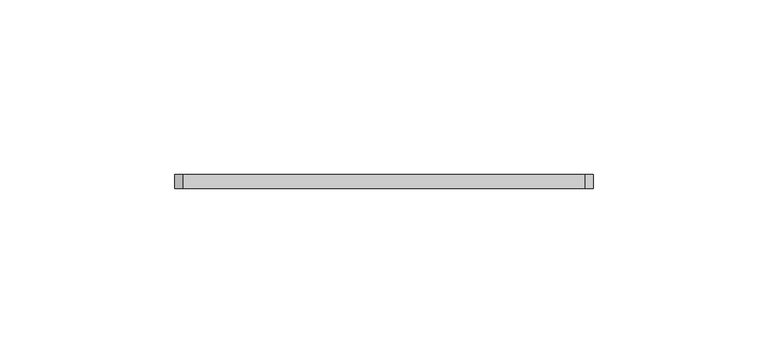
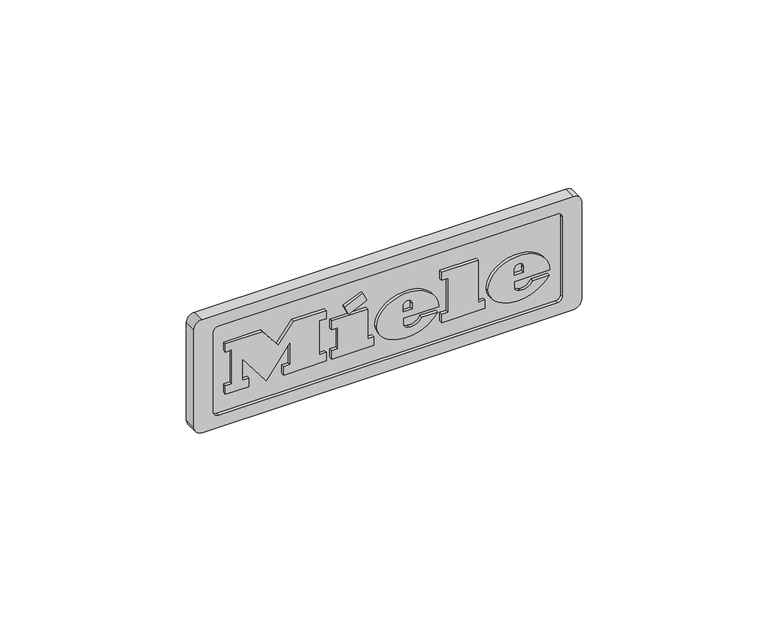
"""IFC4 building model written with IfcOpenShell, lengths in millimetres: proxy geometry, 09810110_USA_HR1421_EDST-CLST : 25142151_USA_9810110_HR1421_EDST-CLST."""

from ifc_helpers import new_model, si_unit, point, frame, origin, place, context, project, spatial, polyline, circle_curve, ellipse_curve, trimmed, outline, extrude, source, transform, mapped, element, save
from ifc_brep_helpers import plane_surface, cylinder_surface, revolved_surface, extruded_surface, advanced_brep


def specialty_equipment_497d5aad(model_context):
    return source(origin(), model_context, "Body", "SolidModel", [
        advanced_brep(
        [(39.18, -674.0, 175.9105), (39.18, -674.0, 177.577), (50.2185, -674.0, 177.577), (31.0125, -674.0, 177.577), (35.55, -674.0, 172.0), (49.938, -674.0, 175.9105), (44.955, -674.0, 175.9105), (41.028, -674.0, 174.0625), (39.18, -674.0, 179.689), (39.18, -674.0, 181.4875), (42.0015, -674.0, 181.4875), (42.0015, -674.0, 179.689), (39.18, -673.0, 175.9105), (41.028, -673.0, 174.0625), (44.955, -673.0, 175.9105), (49.938, -673.0, 175.9105), (35.55, -673.0, 172.0), (31.0125, -673.0, 177.577), (50.2185, -673.0, 177.577), (39.18, -673.0, 177.577), (39.18, -673.0, 179.689), (42.0015, -673.0, 179.689), (42.0015, -673.0, 181.4875), (39.18, -673.0, 181.4875)],
        [
            (0, 1),
            (1, 2),
            (2, 3, ellipse_curve(frame((40.6155, -674.0, 177.577), z_axis=(0.0, -1.0, 0.0), x_axis=(-1.0, 0.0, 0.0)), 9.603, 7.9365)),
            (3, 4, circle_curve(frame((37.39809, -674.0, 178.138), z_axis=(0.0, -1.0, 0.0), x_axis=(0.0, 0.0, -1.0)), 6.4101857)),
            (4, 5, circle_curve(frame((40.4232618, -674.0, 182.494), z_axis=(0.0, -1.0, 0.0), x_axis=(0.0, 0.0, -1.0)), 11.5703378)),
            (5, 6),
            (6, 7, circle_curve(frame((41.8345588, -674.0, 177.445), z_axis=(0.0, 1.0, 0.0), x_axis=(0.0, 0.0, -1.0)), 3.4773328)),
            (7, 0, circle_curve(frame((41.028, -674.0, 175.9105), z_axis=(0.0, 1.0, 0.0), x_axis=(0.0, 0.0, -1.0)), 1.848)),
            (8, 9),
            (9, 10, circle_curve(frame((40.59075, -674.0, 181.4875), z_axis=(0.0, 1.0, 0.0), x_axis=(0.0, 0.0, -1.0)), 1.41075)),
            (10, 11),
            (11, 8),
            (12, 13, circle_curve(frame((41.028, -673.0, 175.9105), z_axis=(0.0, -1.0, 0.0), x_axis=(0.0, 0.0, -1.0)), 1.848)),
            (13, 14, circle_curve(frame((41.8345588, -673.0, 177.445), z_axis=(0.0, -1.0, 0.0), x_axis=(0.0, 0.0, -1.0)), 3.4773328)),
            (14, 15),
            (15, 16, circle_curve(frame((40.4232618, -673.0, 182.494), z_axis=(0.0, 1.0, 0.0), x_axis=(0.0, 0.0, -1.0)), 11.5703378)),
            (16, 17, circle_curve(frame((37.39809, -673.0, 178.138), z_axis=(0.0, 1.0, 0.0), x_axis=(0.0, 0.0, -1.0)), 6.4101857)),
            (17, 18, ellipse_curve(frame((40.6155, -673.0, 177.577), z_axis=(0.0, 1.0, 0.0), x_axis=(-1.0, 0.0, 0.0)), 9.603, 7.9365)),
            (18, 19),
            (19, 12),
            (20, 21),
            (21, 22),
            (22, 23, circle_curve(frame((40.59075, -673.0, 181.4875), z_axis=(0.0, -1.0, 0.0), x_axis=(0.0, 0.0, -1.0)), 1.41075)),
            (23, 20),
            (0, 12),
            (19, 1),
            (18, 2),
            (5, 15),
            (14, 6),
            (17, 3),
            (13, 7),
            (16, 4),
            (8, 20),
            (23, 9),
            (22, 10),
            (21, 11),
        ],
        [
            plane_surface(frame((39.18, -674.0, 177.577), z_axis=(0.0, -1.0, 0.0), x_axis=(0.0, 0.0, 1.0))),
            plane_surface(frame((39.18, -673.0, 177.577), z_axis=(0.0, 1.0, 0.0), x_axis=(0.0, 0.0, -1.0))),
            plane_surface(frame((39.18, -674.0, 175.9105), z_axis=(1.0, 0.0, 0.0), x_axis=(0.0, 1.0, 0.0))),
            plane_surface(frame((39.18, -674.0, 177.577), z_axis=(0.0, 0.0, -1.0), x_axis=(0.0, 1.0, 0.0))),
            plane_surface(frame((49.938, -674.0, 175.9105), z_axis=(0.0, 0.0, 1.0), x_axis=(0.0, 1.0, 0.0))),
            extruded_surface(trimmed(ellipse_curve(frame((40.6155, -672.0, 177.577), z_axis=(0.0, -1.0, 0.0), x_axis=(-1.0, 0.0, 0.0)), 9.603, 7.9365), [point((50.2185, -672.0, 177.577))], [point((31.0125, -672.0, 177.577))], True, "CARTESIAN"), (0.0, -1.0, 0.0), 1.0),
            revolved_surface(polyline([(41.8345588, -673.0, 173.9676672), (41.8345588, -674.0, 173.9676672)]), (41.8345588, -673.0, 177.445), (0.0, 1.0, 0.0)),
            revolved_surface(polyline([(41.028, -673.0, 174.0625), (41.028, -674.0, 174.0625)]), (41.028, -673.0, 175.9105), (0.0, 1.0, 0.0)),
            cylinder_surface(frame((37.39809, -673.0, 178.138), z_axis=(0.0, -1.0, 0.0), x_axis=(0.0, 0.0, -1.0)), 6.4101857),
            cylinder_surface(frame((40.4232618, -673.0, 182.494), z_axis=(0.0, -1.0, 0.0), x_axis=(0.0, 0.0, -1.0)), 11.5703378),
            plane_surface(frame((39.18, -674.0, 179.689), z_axis=(1.0, 0.0, 0.0), x_axis=(0.0, 1.0, 0.0))),
            revolved_surface(polyline([(40.59075, -673.0, 180.07675), (40.59075, -674.0, 180.07675)]), (40.59075, -673.0, 181.4875), (0.0, 1.0, 0.0)),
            plane_surface(frame((42.0015, -674.0, 181.4875), z_axis=(-1.0, 0.0, 0.0), x_axis=(0.0, 1.0, 0.0))),
            plane_surface(frame((42.0015, -674.0, 179.689), z_axis=(0.0, 0.0, 1.0), x_axis=(0.0, 1.0, 0.0))),
        ],
        [
            (0, [[1, 2, 3, 4, 5, 6, 7, 8], [9, 10, 11, 12]]),
            (1, [[13, 14, 15, 16, 17, 18, 19, 20], [21, 22, 23, 24]]),
            (2, [[-1, 25, -20, 26]]),
            (3, [[-2, -26, -19, 27]]),
            (4, [[-6, 28, -15, 29]]),
            (5, [[-3, -27, -18, 30]]),
            (6, [[-7, -29, -14, 31]]),
            (7, [[-8, -31, -13, -25]]),
            (8, [[-4, -30, -17, 32]]),
            (9, [[-5, -32, -16, -28]]),
            (10, [[-9, 33, -24, 34]]),
            (11, [[-10, -34, -23, 35]]),
            (12, [[-11, -35, -22, 36]]),
            (13, [[-12, -36, -21, -33]]),
        ],
    ),
        advanced_brep(
        [(4.7445, -674.0, 175.9105), (4.7445, -674.0, 177.577), (15.783, -674.0, 177.577), (-3.423, -674.0, 177.577), (1.1145, -674.0, 172.0), (15.5025, -674.0, 175.9105), (10.5195, -674.0, 175.9105), (6.5925, -674.0, 174.0625), (4.7445, -674.0, 179.689), (4.7445, -674.0, 181.4875), (7.566, -674.0, 181.4875), (7.566, -674.0, 179.689), (4.7445, -673.0, 175.9105), (6.5925, -673.0, 174.0625), (10.5195, -673.0, 175.9105), (15.5025, -673.0, 175.9105), (1.1145, -673.0, 172.0), (-3.423, -673.0, 177.577), (15.783, -673.0, 177.577), (4.7445, -673.0, 177.577), (4.7445, -673.0, 179.689), (7.566, -673.0, 179.689), (7.566, -673.0, 181.4875), (4.7445, -673.0, 181.4875)],
        [
            (0, 1),
            (1, 2),
            (2, 3, ellipse_curve(frame((6.18, -674.0, 177.577), z_axis=(0.0, -1.0, 0.0), x_axis=(-1.0, 0.0, 0.0)), 9.603, 7.9365)),
            (3, 4, circle_curve(frame((2.96259, -674.0, 178.138), z_axis=(0.0, -1.0, 0.0), x_axis=(0.0, 0.0, -1.0)), 6.4101857)),
            (4, 5, circle_curve(frame((5.9877618, -674.0, 182.494), z_axis=(0.0, -1.0, 0.0), x_axis=(0.0, 0.0, -1.0)), 11.5703378)),
            (5, 6),
            (6, 7, circle_curve(frame((7.3990588, -674.0, 177.445), z_axis=(0.0, 1.0, 0.0), x_axis=(0.0, 0.0, -1.0)), 3.4773328)),
            (7, 0, circle_curve(frame((6.5925, -674.0, 175.9105), z_axis=(0.0, 1.0, 0.0), x_axis=(0.0, 0.0, -1.0)), 1.848)),
            (8, 9),
            (9, 10, circle_curve(frame((6.15525, -674.0, 181.4875), z_axis=(0.0, 1.0, 0.0), x_axis=(0.0, 0.0, -1.0)), 1.41075)),
            (10, 11),
            (11, 8),
            (12, 13, circle_curve(frame((6.5925, -673.0, 175.9105), z_axis=(0.0, -1.0, 0.0), x_axis=(0.0, 0.0, -1.0)), 1.848)),
            (13, 14, circle_curve(frame((7.3990588, -673.0, 177.445), z_axis=(0.0, -1.0, 0.0), x_axis=(0.0, 0.0, -1.0)), 3.4773328)),
            (14, 15),
            (15, 16, circle_curve(frame((5.9877618, -673.0, 182.494), z_axis=(0.0, 1.0, 0.0), x_axis=(0.0, 0.0, -1.0)), 11.5703378)),
            (16, 17, circle_curve(frame((2.96259, -673.0, 178.138), z_axis=(0.0, 1.0, 0.0), x_axis=(0.0, 0.0, -1.0)), 6.4101857)),
            (17, 18, ellipse_curve(frame((6.18, -673.0, 177.577), z_axis=(0.0, 1.0, 0.0), x_axis=(-1.0, 0.0, 0.0)), 9.603, 7.9365)),
            (18, 19),
            (19, 12),
            (20, 21),
            (21, 22),
            (22, 23, circle_curve(frame((6.15525, -673.0, 181.4875), z_axis=(0.0, -1.0, 0.0), x_axis=(0.0, 0.0, -1.0)), 1.41075)),
            (23, 20),
            (0, 12),
            (19, 1),
            (18, 2),
            (5, 15),
            (14, 6),
            (17, 3),
            (13, 7),
            (16, 4),
            (8, 20),
            (23, 9),
            (22, 10),
            (21, 11),
        ],
        [
            plane_surface(frame((4.7445, -674.0, 177.577), z_axis=(0.0, -1.0, 0.0), x_axis=(0.0, 0.0, 1.0))),
            plane_surface(frame((4.7445, -673.0, 177.577), z_axis=(0.0, 1.0, 0.0), x_axis=(0.0, 0.0, -1.0))),
            plane_surface(frame((4.7445, -674.0, 175.9105), z_axis=(1.0, 0.0, 0.0), x_axis=(0.0, 1.0, 0.0))),
            plane_surface(frame((4.7445, -674.0, 177.577), z_axis=(0.0, 0.0, -1.0), x_axis=(0.0, 1.0, 0.0))),
            plane_surface(frame((15.5025, -674.0, 175.9105), z_axis=(0.0, 0.0, 1.0), x_axis=(0.0, 1.0, 0.0))),
            extruded_surface(trimmed(ellipse_curve(frame((6.18, -672.0, 177.577), z_axis=(0.0, -1.0, 0.0), x_axis=(-1.0, 0.0, 0.0)), 9.603, 7.9365), [point((15.783, -672.0, 177.577))], [point((-3.423, -672.0, 177.577))], True, "CARTESIAN"), (0.0, -1.0, 0.0), 1.0),
            revolved_surface(polyline([(7.3990588, -673.0, 173.9676672), (7.3990588, -674.0, 173.9676672)]), (7.3990588, -673.0, 177.445), (0.0, 1.0, 0.0)),
            revolved_surface(polyline([(6.5925, -673.0, 174.0625), (6.5925, -674.0, 174.0625)]), (6.5925, -673.0, 175.9105), (0.0, 1.0, 0.0)),
            cylinder_surface(frame((2.96259, -673.0, 178.138), z_axis=(0.0, -1.0, 0.0), x_axis=(0.0, 0.0, -1.0)), 6.4101857),
            cylinder_surface(frame((5.9877618, -673.0, 182.494), z_axis=(0.0, -1.0, 0.0), x_axis=(0.0, 0.0, -1.0)), 11.5703378),
            plane_surface(frame((4.7445, -674.0, 179.689), z_axis=(1.0, 0.0, 0.0), x_axis=(0.0, 1.0, 0.0))),
            revolved_surface(polyline([(6.15525, -673.0, 180.07675), (6.15525, -674.0, 180.07675)]), (6.15525, -673.0, 181.4875), (0.0, 1.0, 0.0)),
            plane_surface(frame((7.566, -674.0, 181.4875), z_axis=(-1.0, 0.0, 0.0), x_axis=(0.0, 1.0, 0.0))),
            plane_surface(frame((7.566, -674.0, 179.689), z_axis=(0.0, 0.0, 1.0), x_axis=(0.0, 1.0, 0.0))),
        ],
        [
            (0, [[1, 2, 3, 4, 5, 6, 7, 8], [9, 10, 11, 12]]),
            (1, [[13, 14, 15, 16, 17, 18, 19, 20], [21, 22, 23, 24]]),
            (2, [[-1, 25, -20, 26]]),
            (3, [[-2, -26, -19, 27]]),
            (4, [[-6, 28, -15, 29]]),
            (5, [[-3, -27, -18, 30]]),
            (6, [[-7, -29, -14, 31]]),
            (7, [[-8, -31, -13, -25]]),
            (8, [[-4, -30, -17, 32]]),
            (9, [[-5, -32, -16, -28]]),
            (10, [[-9, 33, -24, 34]]),
            (11, [[-10, -34, -23, 35]]),
            (12, [[-11, -35, -22, 36]]),
            (13, [[-12, -36, -21, -33]]),
        ],
    ),
        extrude(outline(polyline([(187.5265, -13.29), (184.8535, -12.036), (187.4605, -6.4425), (190.1335, -7.68), (187.5265, -13.29)])), frame((0.0, -674.0, 0.0), z_axis=(0.0, 1.0, 0.0), x_axis=(0.0, 0.0, 1.0)), (0.0, 0.0, 1.0), 1.0),
        extrude(outline(polyline([(184.4905, -17.3655), (181.537, -17.3655), (181.537, -15.402), (174.772, -15.402), (174.772, -17.3655), (172.0, -17.3655), (172.0, -4.347), (174.772, -4.347), (174.772, -6.261), (184.4905, -6.261), (184.4905, -17.3655)])), frame((0.0, -674.0, 0.0), z_axis=(0.0, 1.0, 0.0), x_axis=(0.0, 0.0, 1.0)), (0.0, 0.0, 1.0), 1.0),
        extrude(outline(polyline([(185.8105, 16.707), (185.8105, 18.687), (174.772, 18.687), (174.772, 16.707), (172.0, 16.707), (172.0, 30.0885), (174.772, 30.0885), (174.772, 28.059), (188.5, 28.059), (188.5, 16.707), (185.8105, 16.707)])), frame((0.0, -674.0, 0.0), z_axis=(0.0, 1.0, 0.0), x_axis=(0.0, 0.0, 1.0)), (0.0, 0.0, 1.0), 1.0),
        extrude(outline(polyline([(185.8105, -50.25), (185.8105, -48.2535), (174.772, -48.2535), (174.772, -50.25), (172.0, -50.25), (172.0, -42.99), (174.772, -42.99), (174.772, -44.97), (181.7366247, -44.97), (172.0, -37.5945), (182.1277223, -30.186), (174.772, -30.186), (174.772, -32.2155), (172.0, -32.2155), (172.0, -19.0485), (174.772, -19.0485), (174.772, -21.144), (185.8105, -21.144), (185.8105, -19.0485), (188.5, -19.0485), (188.5, -29.097), (182.3125, -33.915), (188.5, -38.7495), (188.5, -50.25), (185.8105, -50.25)])), frame((0.0, -674.0, 0.0), z_axis=(0.0, 1.0, 0.0), x_axis=(0.0, 0.0, 1.0)), (0.0, 0.0, 1.0), 1.0),
        advanced_brep(
        [(57.5, -674.0, 199.0), (-57.5, -674.0, 199.0), (-60.0, -674.0, 196.5), (-60.0, -674.0, 164.5), (-57.5, -674.0, 162.0), (57.5, -674.0, 162.0), (60.0, -674.0, 164.5), (60.0, -674.0, 196.5), (-52.5, -674.0, 195.0), (52.5, -674.0, 195.0), (54.0, -674.0, 193.5), (54.0, -674.0, 167.5), (52.5, -674.0, 166.0), (-52.5, -674.0, 166.0), (-54.0, -674.0, 167.5), (-54.0, -674.0, 193.5), (57.5, -670.0, 199.0), (60.0, -670.0, 196.5), (60.0, -670.0, 164.5), (57.5, -670.0, 162.0), (-57.5, -670.0, 162.0), (-60.0, -670.0, 164.5), (-60.0, -670.0, 196.5), (-57.5, -670.0, 199.0), (52.5, -673.0, 195.0), (-52.5, -673.0, 195.0), (-54.0, -673.0, 193.5), (-54.0, -673.0, 167.5), (-52.5, -673.0, 166.0), (52.5, -673.0, 166.0), (54.0, -673.0, 167.5), (54.0, -673.0, 193.5)],
        [
            (0, 1),
            (1, 2, circle_curve(frame((-57.5, -674.0, 196.5), z_axis=(0.0, -1.0, 0.0), x_axis=(-1.0, 0.0, 0.0)), 2.5)),
            (2, 3),
            (3, 4, circle_curve(frame((-57.5, -674.0, 164.5), z_axis=(0.0, -1.0, 0.0), x_axis=(-1.0, 0.0, 0.0)), 2.5)),
            (4, 5),
            (5, 6, circle_curve(frame((57.5, -674.0, 164.5), z_axis=(0.0, -1.0, 0.0), x_axis=(-1.0, 0.0, 0.0)), 2.5)),
            (6, 7),
            (7, 0, circle_curve(frame((57.5, -674.0, 196.5), z_axis=(0.0, -1.0, 0.0), x_axis=(-1.0, 0.0, 0.0)), 2.5)),
            (8, 9),
            (9, 10, circle_curve(frame((52.5, -674.0, 193.5), z_axis=(0.0, 1.0, 0.0), x_axis=(1.0, 0.0, 0.0)), 1.5)),
            (10, 11),
            (11, 12, circle_curve(frame((52.5, -674.0, 167.5), z_axis=(0.0, 1.0, 0.0), x_axis=(1.0, 0.0, 0.0)), 1.5)),
            (12, 13),
            (13, 14, circle_curve(frame((-52.5, -674.0, 167.5), z_axis=(0.0, 1.0, 0.0), x_axis=(1.0, 0.0, 0.0)), 1.5)),
            (14, 15),
            (15, 8, circle_curve(frame((-52.5, -674.0, 193.5), z_axis=(0.0, 1.0, 0.0), x_axis=(1.0, 0.0, 0.0)), 1.5)),
            (16, 17, circle_curve(frame((57.5, -670.0, 196.5), z_axis=(0.0, 1.0, 0.0), x_axis=(-1.0, 0.0, 0.0)), 2.5)),
            (17, 18),
            (18, 19, circle_curve(frame((57.5, -670.0, 164.5), z_axis=(0.0, 1.0, 0.0), x_axis=(-1.0, 0.0, 0.0)), 2.5)),
            (19, 20),
            (20, 21, circle_curve(frame((-57.5, -670.0, 164.5), z_axis=(0.0, 1.0, 0.0), x_axis=(-1.0, 0.0, 0.0)), 2.5)),
            (21, 22),
            (22, 23, circle_curve(frame((-57.5, -670.0, 196.5), z_axis=(0.0, 1.0, 0.0), x_axis=(-1.0, 0.0, 0.0)), 2.5)),
            (23, 16),
            (0, 16),
            (23, 1),
            (22, 2),
            (21, 3),
            (20, 4),
            (19, 5),
            (18, 6),
            (17, 7),
            (24, 25),
            (25, 26, circle_curve(frame((-52.5, -673.0, 193.5), z_axis=(0.0, -1.0, 0.0), x_axis=(1.0, 0.0, 0.0)), 1.5)),
            (26, 27),
            (27, 28, circle_curve(frame((-52.5, -673.0, 167.5), z_axis=(0.0, -1.0, 0.0), x_axis=(1.0, 0.0, 0.0)), 1.5)),
            (28, 29),
            (29, 30, circle_curve(frame((52.5, -673.0, 167.5), z_axis=(0.0, -1.0, 0.0), x_axis=(1.0, 0.0, 0.0)), 1.5)),
            (30, 31),
            (31, 24, circle_curve(frame((52.5, -673.0, 193.5), z_axis=(0.0, -1.0, 0.0), x_axis=(1.0, 0.0, 0.0)), 1.5)),
            (24, 9),
            (8, 25),
            (15, 26),
            (14, 27),
            (13, 28),
            (12, 29),
            (11, 30),
            (10, 31),
        ],
        [
            plane_surface(frame((55.0, -674.0, 196.5), z_axis=(0.0, -1.0, 0.0), x_axis=(0.0, 0.0, -1.0))),
            plane_surface(frame((55.0, -670.0, 196.5), z_axis=(0.0, 1.0, 0.0), x_axis=(0.0, 0.0, 1.0))),
            plane_surface(frame((-57.5, -670.0, 199.0), z_axis=(0.0, 0.0, 1.0), x_axis=(0.0, -1.0, 0.0))),
            cylinder_surface(frame((-57.5, -674.0, 196.5), z_axis=(0.0, 1.0, 0.0), x_axis=(-1.0, 0.0, 0.0)), 2.5),
            plane_surface(frame((-60.0, -670.0, 164.5), z_axis=(-1.0, 0.0, 0.0), x_axis=(0.0, -1.0, 0.0))),
            cylinder_surface(frame((-57.5, -674.0, 164.5), z_axis=(0.0, 1.0, 0.0), x_axis=(-1.0, 0.0, 0.0)), 2.5),
            plane_surface(frame((57.5, -670.0, 162.0), z_axis=(0.0, 0.0, -1.0), x_axis=(0.0, -1.0, 0.0))),
            cylinder_surface(frame((57.5, -674.0, 164.5), z_axis=(0.0, 1.0, 0.0), x_axis=(-1.0, 0.0, 0.0)), 2.5),
            plane_surface(frame((60.0, -670.0, 196.5), z_axis=(1.0, 0.0, 0.0), x_axis=(0.0, -1.0, 0.0))),
            cylinder_surface(frame((57.5, -674.0, 196.5), z_axis=(0.0, 1.0, 0.0), x_axis=(-1.0, 0.0, 0.0)), 2.5),
            plane_surface(frame((-52.5, -673.0, 195.0), z_axis=(0.0, -1.0, 0.0), x_axis=(1.0, 0.0, 0.0))),
            plane_surface(frame((52.5, -674.0, 195.0), z_axis=(0.0, 0.0, -1.0), x_axis=(0.0, 1.0, 0.0))),
            revolved_surface(polyline([(-51.0, -674.0, 193.5), (-51.0, -673.0, 193.5)]), (-52.5, -673.0, 193.5), (0.0, -1.0, 0.0)),
            plane_surface(frame((-54.0, -674.0, 193.5), z_axis=(1.0, 0.0, 0.0), x_axis=(0.0, 1.0, 0.0))),
            revolved_surface(polyline([(-51.0, -674.0, 167.5), (-51.0, -673.0, 167.5)]), (-52.5, -673.0, 167.5), (0.0, -1.0, 0.0)),
            plane_surface(frame((-52.5, -674.0, 166.0), z_axis=(0.0, 0.0, 1.0), x_axis=(0.0, 1.0, 0.0))),
            revolved_surface(polyline([(54.0, -674.0, 167.5), (54.0, -673.0, 167.5)]), (52.5, -673.0, 167.5), (0.0, -1.0, 0.0)),
            plane_surface(frame((54.0, -674.0, 167.5), z_axis=(-1.0, 0.0, 0.0), x_axis=(0.0, 1.0, 0.0))),
            revolved_surface(polyline([(54.0, -674.0, 193.5), (54.0, -673.0, 193.5)]), (52.5, -673.0, 193.5), (0.0, -1.0, 0.0)),
        ],
        [
            (0, [[1, 2, 3, 4, 5, 6, 7, 8], [9, 10, 11, 12, 13, 14, 15, 16]]),
            (1, [[17, 18, 19, 20, 21, 22, 23, 24]]),
            (2, [[-1, 25, -24, 26]]),
            (3, [[-2, -26, -23, 27]]),
            (4, [[-3, -27, -22, 28]]),
            (5, [[-4, -28, -21, 29]]),
            (6, [[-5, -29, -20, 30]]),
            (7, [[-6, -30, -19, 31]]),
            (8, [[-7, -31, -18, 32]]),
            (9, [[-8, -32, -17, -25]]),
            (10, [[33, 34, 35, 36, 37, 38, 39, 40]]),
            (11, [[-33, 41, -9, 42]]),
            (12, [[-34, -42, -16, 43]]),
            (13, [[-35, -43, -15, 44]]),
            (14, [[-36, -44, -14, 45]]),
            (15, [[-37, -45, -13, 46]]),
            (16, [[-38, -46, -12, 47]]),
            (17, [[-39, -47, -11, 48]]),
            (18, [[-40, -48, -10, -41]]),
        ],
    ),
    ])


if __name__ == "__main__":
    model = new_model("IFC4")
    model_context = context("Model", 3, world=origin())
    ifc_project = project(units=[si_unit("LENGTHUNIT", "METRE", prefix="MILLI")], contexts=[model_context])
    site = spatial("IfcSite", under=ifc_project)
    building = spatial("IfcBuilding", under=site)
    placement = place(None, origin())
    specialty_equipment_shape = specialty_equipment_497d5aad(model_context)
    element("IfcBuildingElementProxy", 1, Name="09810110_USA_HR1421_EDST-CLST : 25142151_USA_9810110_HR1421_EDST-CLST", ObjectType="09810110_USA_HR1421_EDST-CLST : 25142151_USA_9810110_HR1421_EDST-CLST", at=placement, inside=building, context=model_context, shape_type="MappedRepresentation", body=[
        mapped(specialty_equipment_shape, transform((0.0, 0.0, 0.0), x_axis=(1.0, 0.0, 0.0), y_axis=(0.0, 1.0, 0.0), z_axis=(0.0, 0.0, 1.0))),
    ])
    save(model, "model.ifc")
